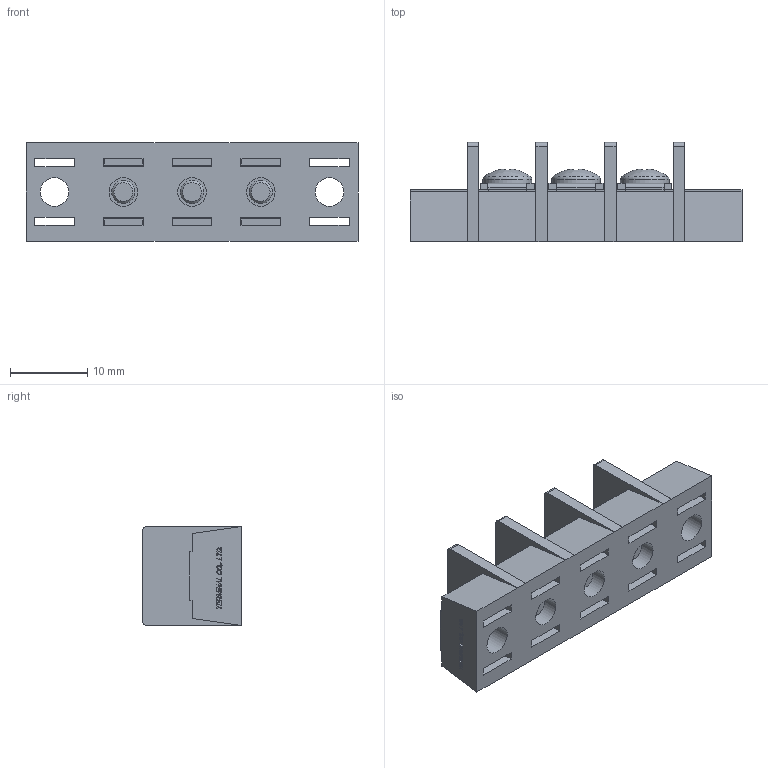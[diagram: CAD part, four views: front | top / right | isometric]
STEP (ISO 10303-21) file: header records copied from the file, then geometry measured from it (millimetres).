
FILE_DESCRIPTION(/* description */ ('Alibre Inc.'),/* implementation_level */ '2;1');
FILE_NAME(/* name */ 'export0',/* time_stamp */ '2015-10-20T20:34:07+09:00',/* author */ (''),/* organization */ (''),/* preprocessor_version */ 'ST-DEVELOPER v14',/* originating_system */ 'Alibre',/* authorisation */ '');
FILE_SCHEMA (('CONFIG_CONTROL_DESIGN'));
Length unit declared in the file: centimetre
Products named in the file (1): ID_1
Bounding box: 42.96 x 12.8 x 12.8 mm (x, y, z)
Volume: 3517 mm3; surface area: 4307.9 mm2
Topology: 1 solids, 52 shells, 1243 faces, 3211 edges, 2126 vertices
Faces by surface type: plane 926, bspline 260, cylinder 33, cone 15, torus 6, sphere 3
Full cylindrical faces by diameter (mm): 3 x6, 3.7 x5, 4.6 x5, 6.3 x3
Entity records: 36343 total; most frequent: CARTESIAN_POINT 8897, ORIENTED_EDGE 6356, DIRECTION 3732, EDGE_CURVE 3178, VECTOR 2473, LINE 2473, VERTEX_POINT 2121, EDGE_LOOP 1379
